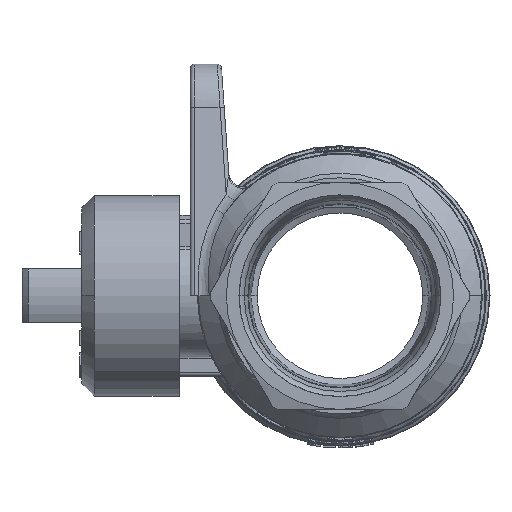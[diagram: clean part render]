
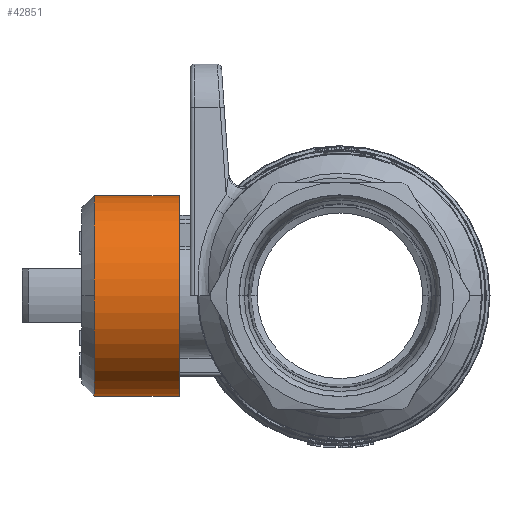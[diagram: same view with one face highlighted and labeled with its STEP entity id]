
A CAD part, left-side view. The second image highlights one B-rep face of the part: STEP entity #42851.
In plain terms, the highlighted cylindrical face has radius 24.25 mm (diameter 48.5 mm), a partial arc.
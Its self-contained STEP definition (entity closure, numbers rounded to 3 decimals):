
#37940=CARTESIAN_POINT('',(0.,0.,0.));
#37941=DIRECTION('',(0.,1.,0.));
#37942=DIRECTION('',(0.278,0.,-0.961));
#37943=AXIS2_PLACEMENT_3D('',#37940,#37941,#37942);
#38012=DIRECTION('',(0.,-1.,0.));
#38013=VECTOR('',#38012,20.53);
#38014=CARTESIAN_POINT('',(6.744,20.53,-23.293));
#38015=LINE('',#38014,#38013);
#38644=DIRECTION('',(0.,1.,0.));
#38645=VECTOR('',#38644,20.53);
#38646=CARTESIAN_POINT('',(6.744,0.,23.293));
#38647=LINE('',#38646,#38645);
#38702=CARTESIAN_POINT('',(0.,20.53,0.));
#38703=DIRECTION('',(0.,1.,0.));
#38704=DIRECTION('',(0.278,0.,-0.961));
#38705=AXIS2_PLACEMENT_3D('',#38702,#38703,#38704);
#38707=CARTESIAN_POINT('',(0.,20.53,0.));
#38708=DIRECTION('',(0.,1.,0.));
#38709=DIRECTION('',(-1.,0.,0.));
#38710=AXIS2_PLACEMENT_3D('',#38707,#38708,#38709);
#41151=CARTESIAN_POINT('',(6.744,0.,-23.293));
#41153=VERTEX_POINT('',#41151);
#41154=CARTESIAN_POINT('',(6.744,0.,23.293));
#41155=VERTEX_POINT('',#41154);
#41174=CARTESIAN_POINT('',(6.744,20.53,-23.293));
#41175=CARTESIAN_POINT('',(-24.25,20.53,0.));
#41176=VERTEX_POINT('',#41174);
#41177=VERTEX_POINT('',#41175);
#41178=CARTESIAN_POINT('',(6.744,20.53,23.293));
#41179=VERTEX_POINT('',#41178);
#42839=CARTESIAN_POINT('',(0.,0.,0.));
#42840=DIRECTION('',(0.,1.,0.));
#42841=DIRECTION('',(1.,0.,0.));
#42842=AXIS2_PLACEMENT_3D('',#42839,#42840,#42841);
#42843=CYLINDRICAL_SURFACE('',#42842,24.25);
#42844=ORIENTED_EDGE('',*,*,#42244,.T.);
#42845=ORIENTED_EDGE('',*,*,#42829,.T.);
#42846=ORIENTED_EDGE('',*,*,#42704,.F.);
#42847=ORIENTED_EDGE('',*,*,#42161,.F.);
#42848=ORIENTED_EDGE('',*,*,#42203,.F.);
#42849=EDGE_LOOP('',(#42844,#42845,#42846,#42847,#42848));
#42850=FACE_OUTER_BOUND('',#42849,.F.);
#42851=ADVANCED_FACE('',(#42850),#42843,.T.);
#37944=CIRCLE('',#37943,24.25);
#38706=CIRCLE('',#38705,24.25);
#38711=CIRCLE('',#38710,24.25);
#42161=EDGE_CURVE('',#41153,#41155,#37944,.T.);
#42203=EDGE_CURVE('',#41176,#41153,#38015,.T.);
#42244=EDGE_CURVE('',#41176,#41177,#38706,.T.);
#42704=EDGE_CURVE('',#41155,#41179,#38647,.T.);
#42829=EDGE_CURVE('',#41177,#41179,#38711,.T.);
